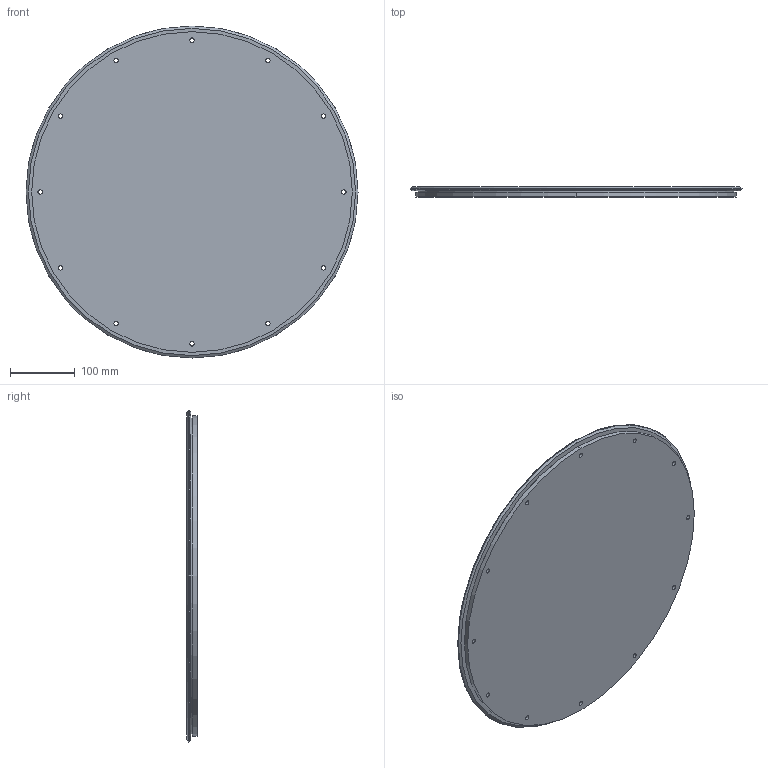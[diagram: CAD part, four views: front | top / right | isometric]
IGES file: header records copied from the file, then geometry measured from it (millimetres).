
Start section: 3D InterOp IGES (v. 2020 1.0.1), Spatial Corp. Copyright (c) 1999-2017.
Global section: file name: rd44_468_.igs; native system: Spatial Corp.; preprocessor: 3D InterOp ACIS/IGES; author: TraceParts; organization: TraceParts S.A.; date: 20220624.042221; units: millimetre
Bounding box: 511.61 x 15.5 x 511.61 mm (x, y, z)
Surface area: 444222.4 mm2 (no closed solid volume)
Topology: 0 solids, 0 shells, 76 faces, 348 edges, 348 vertices
Faces by surface type: revolution 60, extrusion 16
